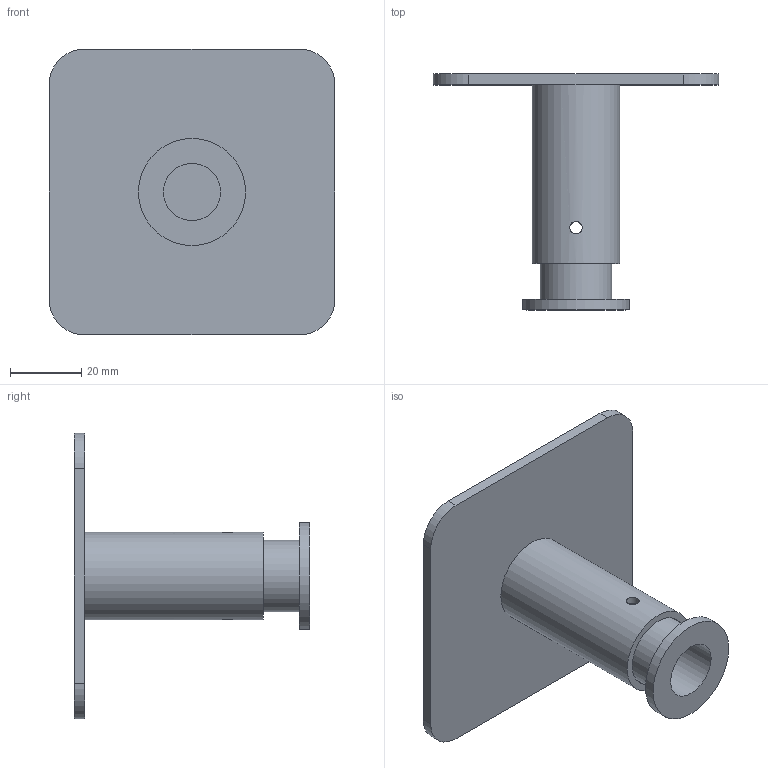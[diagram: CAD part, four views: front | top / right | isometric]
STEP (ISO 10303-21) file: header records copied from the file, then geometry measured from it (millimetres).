
FILE_DESCRIPTION(/* description */ (''),/* implementation_level */ '2;1');
FILE_NAME(/* name */ 'minikomoda_adapter v2.step',/* time_stamp */ '2026-04-10T14:23:31+02:00',/* author */ (''),/* organization */ (''),/* preprocessor_version */ 'ST-DEVELOPER v20.1',/* originating_system */ 'Autodesk Translation Framework v14.24.0.0',/* authorisation */ '');
FILE_SCHEMA (('AUTOMOTIVE_DESIGN { 1 0 10303 214 3 1 1 }'));
Length unit declared in the file: millimetre
Products named in the file (1): (Niezapisany)
Bounding box: 80 x 66 x 80 mm (x, y, z)
Volume: 30844.1 mm3; surface area: 25454.9 mm2
Topology: 2 solids, 2 shells, 24 faces, 53 edges, 36 vertices
Faces by surface type: cylinder 13, plane 11
Full cylindrical faces by diameter (mm): 3.5 x4, 16 x1, 20 x1, 20.5 x1, 24.5 x1, 30 x1
Entity records: 969 total; most frequent: CARTESIAN_POINT 380, DIRECTION 111, ORIENTED_EDGE 106, EDGE_CURVE 53, AXIS2_PLACEMENT_3D 43, EDGE_LOOP 37, VERTEX_POINT 36, LINE 25
